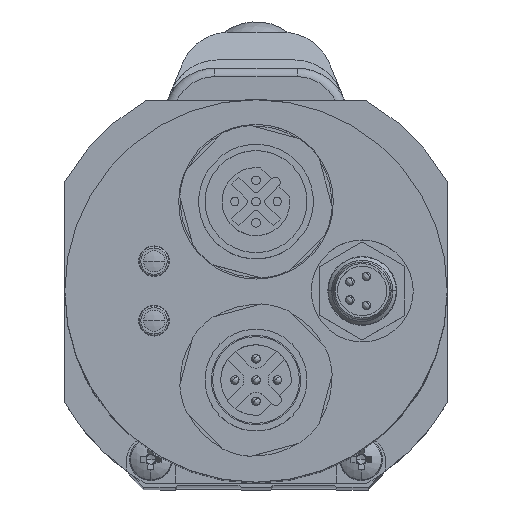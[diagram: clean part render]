
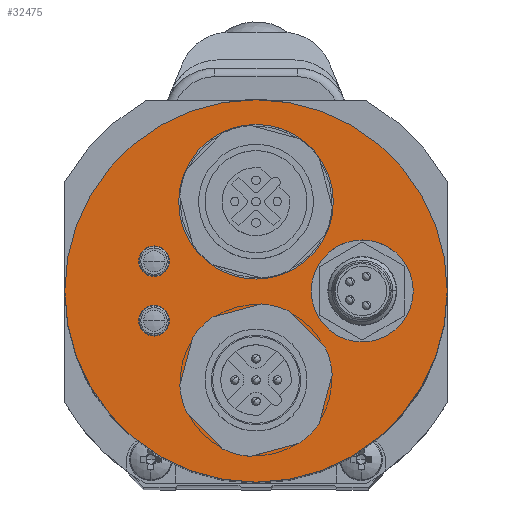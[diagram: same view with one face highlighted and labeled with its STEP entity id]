
A CAD part, top view. The second image highlights one B-rep face of the part: STEP entity #32475.
In plain terms, the highlighted planar face has unit normal (0, 0, 1) as drawn and (0, 1, 0) by its records, which use the part's own axes.
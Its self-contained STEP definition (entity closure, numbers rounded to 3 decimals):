
#121 = DIRECTION ( 'NONE',  ( 0., 0., 1. ) ) ;
#188 = EDGE_LOOP ( 'NONE', ( #28341, #16412 ) ) ;
#907 = CIRCLE ( 'NONE', #9669, 9.1 ) ;
#1080 = CARTESIAN_POINT ( 'NONE',  ( 0., 20.7, 10.5 ) ) ;
#1435 = DIRECTION ( 'NONE',  ( 0., 0., 1. ) ) ;
#1469 = EDGE_CURVE ( 'NONE', #3757, #6145, #37229, .T. ) ;
#1903 = ORIENTED_EDGE ( 'NONE', *, *, #19093, .F. ) ;
#1958 = EDGE_CURVE ( 'NONE', #12458, #12700, #19156, .T. ) ;
#2198 = CARTESIAN_POINT ( 'NONE',  ( 12.5, 20.7, -6. ) ) ;
#2731 = CARTESIAN_POINT ( 'NONE',  ( 0., 20.7, -19.6 ) ) ;
#2786 = DIRECTION ( 'NONE',  ( 0., 0., -1. ) ) ;
#2930 = CIRCLE ( 'NONE', #45511, 1.8 ) ;
#3499 = AXIS2_PLACEMENT_3D ( 'NONE', #37834, #14822, #41680 ) ;
#3621 = DIRECTION ( 'NONE',  ( 0., 1., 0. ) ) ;
#3757 = VERTEX_POINT ( 'NONE', #23167 ) ;
#4343 = EDGE_CURVE ( 'NONE', #40464, #38436, #26228, .T. ) ;
#4808 = EDGE_LOOP ( 'NONE', ( #37426, #5301 ) ) ;
#4925 = DIRECTION ( 'NONE',  ( 0., 0., 1. ) ) ;
#5301 = ORIENTED_EDGE ( 'NONE', *, *, #27866, .F. ) ;
#5314 = EDGE_CURVE ( 'NONE', #12700, #12458, #37515, .T. ) ;
#6087 = VERTEX_POINT ( 'NONE', #9784 ) ;
#6145 = VERTEX_POINT ( 'NONE', #2731 ) ;
#6214 = CARTESIAN_POINT ( 'NONE',  ( 0., 20.7, 17.95 ) ) ;
#6859 = FACE_OUTER_BOUND ( 'NONE', #30364, .T. ) ;
#7483 = CARTESIAN_POINT ( 'NONE',  ( -12., 20.7, -3.5 ) ) ;
#8064 = FACE_BOUND ( 'NONE', #12912, .T. ) ;
#8290 = CIRCLE ( 'NONE', #14467, 1.8 ) ;
#8316 = VERTEX_POINT ( 'NONE', #14316 ) ;
#9669 = AXIS2_PLACEMENT_3D ( 'NONE', #38002, #15000, #41846 ) ;
#9784 = CARTESIAN_POINT ( 'NONE',  ( -12., 20.7, 5.3 ) ) ;
#9809 = DIRECTION ( 'NONE',  ( 0., 1., 0. ) ) ;
#9984 = VERTEX_POINT ( 'NONE', #14165 ) ;
#11071 = VERTEX_POINT ( 'NONE', #37169 ) ;
#11349 = DIRECTION ( 'NONE',  ( 0., 0., 1. ) ) ;
#11906 = CARTESIAN_POINT ( 'NONE',  ( -12., 20.7, -5.3 ) ) ;
#12458 = VERTEX_POINT ( 'NONE', #42991 ) ;
#12700 = VERTEX_POINT ( 'NONE', #6214 ) ;
#12912 = EDGE_LOOP ( 'NONE', ( #14505, #38520 ) ) ;
#13476 = CIRCLE ( 'NONE', #43018, 1.8 ) ;
#13500 = DIRECTION ( 'NONE',  ( 0., -1., 0. ) ) ;
#13811 = CARTESIAN_POINT ( 'NONE',  ( -12., 20.7, -1.7 ) ) ;
#13869 = EDGE_CURVE ( 'NONE', #45646, #8316, #24845, .T. ) ;
#14165 = CARTESIAN_POINT ( 'NONE',  ( 0., 20.7, -22.5 ) ) ;
#14316 = CARTESIAN_POINT ( 'NONE',  ( 12.5, 20.7, 6. ) ) ;
#14467 = AXIS2_PLACEMENT_3D ( 'NONE', #46154, #23132, #121 ) ;
#14505 = ORIENTED_EDGE ( 'NONE', *, *, #36824, .F. ) ;
#14822 = DIRECTION ( 'NONE',  ( 0., -1., 0. ) ) ;
#15000 = DIRECTION ( 'NONE',  ( 0., 1., 0. ) ) ;
#16412 = ORIENTED_EDGE ( 'NONE', *, *, #1958, .F. ) ;
#17059 = FACE_BOUND ( 'NONE', #188, .T. ) ;
#17414 = EDGE_CURVE ( 'NONE', #38436, #40464, #2930, .T. ) ;
#17939 = AXIS2_PLACEMENT_3D ( 'NONE', #19542, #46440, #23429 ) ;
#18278 = FACE_BOUND ( 'NONE', #28215, .T. ) ;
#18743 = EDGE_CURVE ( 'NONE', #40423, #6087, #8290, .T. ) ;
#19093 = EDGE_CURVE ( 'NONE', #9984, #11071, #41277, .T. ) ;
#19156 = CIRCLE ( 'NONE', #34740, 7.45 ) ;
#19542 = CARTESIAN_POINT ( 'NONE',  ( 12.5, 20.7, 0. ) ) ;
#20771 = CARTESIAN_POINT ( 'NONE',  ( -12., 20.7, 3.5 ) ) ;
#21968 = DIRECTION ( 'NONE',  ( 0., 1., 0. ) ) ;
#22600 = AXIS2_PLACEMENT_3D ( 'NONE', #7483, #34356, #11349 ) ;
#22990 = EDGE_LOOP ( 'NONE', ( #47039, #23388 ) ) ;
#23132 = DIRECTION ( 'NONE',  ( 0., 1., 0. ) ) ;
#23167 = CARTESIAN_POINT ( 'NONE',  ( 0., 20.7, -1.4 ) ) ;
#23388 = ORIENTED_EDGE ( 'NONE', *, *, #18743, .F. ) ;
#23429 = DIRECTION ( 'NONE',  ( 0., 0., 1. ) ) ;
#23776 = AXIS2_PLACEMENT_3D ( 'NONE', #47483, #24470, #1435 ) ;
#24470 = DIRECTION ( 'NONE',  ( 0., 1., 0. ) ) ;
#24660 = DIRECTION ( 'NONE',  ( 0., 0., 1. ) ) ;
#24845 = CIRCLE ( 'NONE', #25445, 6. ) ;
#25261 = ORIENTED_EDGE ( 'NONE', *, *, #4343, .F. ) ;
#25445 = AXIS2_PLACEMENT_3D ( 'NONE', #44987, #21968, #48850 ) ;
#25817 = DIRECTION ( 'NONE',  ( 0., -1., 0. ) ) ;
#26100 = EDGE_CURVE ( 'NONE', #11071, #9984, #49654, .T. ) ;
#26228 = CIRCLE ( 'NONE', #22600, 1.8 ) ;
#26659 = CARTESIAN_POINT ( 'NONE',  ( 0., 20.7, 10.5 ) ) ;
#27224 = CARTESIAN_POINT ( 'NONE',  ( -12., 20.7, 1.7 ) ) ;
#27325 = FACE_BOUND ( 'NONE', #22990, .T. ) ;
#27866 = EDGE_CURVE ( 'NONE', #6145, #3757, #907, .T. ) ;
#27975 = DIRECTION ( 'NONE',  ( 0., 1., 0. ) ) ;
#28215 = EDGE_LOOP ( 'NONE', ( #39431, #25261 ) ) ;
#28341 = ORIENTED_EDGE ( 'NONE', *, *, #5314, .F. ) ;
#28843 = PLANE ( 'NONE',  #36115 ) ;
#30364 = EDGE_LOOP ( 'NONE', ( #1903, #42216 ) ) ;
#30518 = DIRECTION ( 'NONE',  ( 0., 0., 1. ) ) ;
#31660 = AXIS2_PLACEMENT_3D ( 'NONE', #26659, #3621, #30518 ) ;
#32367 = CIRCLE ( 'NONE', #17939, 6. ) ;
#32475 = ADVANCED_FACE ( 'NONE', ( #8064, #27325, #18278, #39881, #17059, #6859 ), #28843, .F. ) ;
#32847 = CARTESIAN_POINT ( 'NONE',  ( -12., 20.7, -3.5 ) ) ;
#34356 = DIRECTION ( 'NONE',  ( 0., 1., 0. ) ) ;
#34740 = AXIS2_PLACEMENT_3D ( 'NONE', #1080, #27975, #4925 ) ;
#36115 = AXIS2_PLACEMENT_3D ( 'NONE', #47984, #13500, #40381 ) ;
#36671 = DIRECTION ( 'NONE',  ( 0., 0., 1. ) ) ;
#36824 = EDGE_CURVE ( 'NONE', #8316, #45646, #32367, .T. ) ;
#37169 = CARTESIAN_POINT ( 'NONE',  ( 0., 20.7, 22.5 ) ) ;
#37229 = CIRCLE ( 'NONE', #23776, 9.1 ) ;
#37426 = ORIENTED_EDGE ( 'NONE', *, *, #1469, .F. ) ;
#37515 = CIRCLE ( 'NONE', #31660, 7.45 ) ;
#37834 = CARTESIAN_POINT ( 'NONE',  ( 0., 20.7, 0. ) ) ;
#38002 = CARTESIAN_POINT ( 'NONE',  ( 0., 20.7, -10.5 ) ) ;
#38436 = VERTEX_POINT ( 'NONE', #13811 ) ;
#38520 = ORIENTED_EDGE ( 'NONE', *, *, #13869, .F. ) ;
#39431 = ORIENTED_EDGE ( 'NONE', *, *, #17414, .F. ) ;
#39881 = FACE_BOUND ( 'NONE', #4808, .T. ) ;
#40381 = DIRECTION ( 'NONE',  ( 0., 0., -1. ) ) ;
#40423 = VERTEX_POINT ( 'NONE', #27224 ) ;
#40464 = VERTEX_POINT ( 'NONE', #11906 ) ;
#41277 = CIRCLE ( 'NONE', #49566, 22.5 ) ;
#41680 = DIRECTION ( 'NONE',  ( 0., 0., -1. ) ) ;
#41846 = DIRECTION ( 'NONE',  ( 0., 0., 1. ) ) ;
#42216 = ORIENTED_EDGE ( 'NONE', *, *, #26100, .F. ) ;
#42991 = CARTESIAN_POINT ( 'NONE',  ( 0., 20.7, 3.05 ) ) ;
#43018 = AXIS2_PLACEMENT_3D ( 'NONE', #20771, #47655, #24660 ) ;
#44987 = CARTESIAN_POINT ( 'NONE',  ( 12.5, 20.7, 0. ) ) ;
#45511 = AXIS2_PLACEMENT_3D ( 'NONE', #32847, #9809, #36671 ) ;
#45646 = VERTEX_POINT ( 'NONE', #2198 ) ;
#46154 = CARTESIAN_POINT ( 'NONE',  ( -12., 20.7, 3.5 ) ) ;
#46440 = DIRECTION ( 'NONE',  ( 0., 1., 0. ) ) ;
#47039 = ORIENTED_EDGE ( 'NONE', *, *, #47867, .F. ) ;
#47483 = CARTESIAN_POINT ( 'NONE',  ( 0., 20.7, -10.5 ) ) ;
#47655 = DIRECTION ( 'NONE',  ( 0., 1., 0. ) ) ;
#47867 = EDGE_CURVE ( 'NONE', #6087, #40423, #13476, .T. ) ;
#47984 = CARTESIAN_POINT ( 'NONE',  ( -22.5, 20.7, 0. ) ) ;
#48798 = CARTESIAN_POINT ( 'NONE',  ( 0., 20.7, 0. ) ) ;
#48850 = DIRECTION ( 'NONE',  ( 0., 0., 1. ) ) ;
#49566 = AXIS2_PLACEMENT_3D ( 'NONE', #48798, #25817, #2786 ) ;
#49654 = CIRCLE ( 'NONE', #3499, 22.5 ) ;
